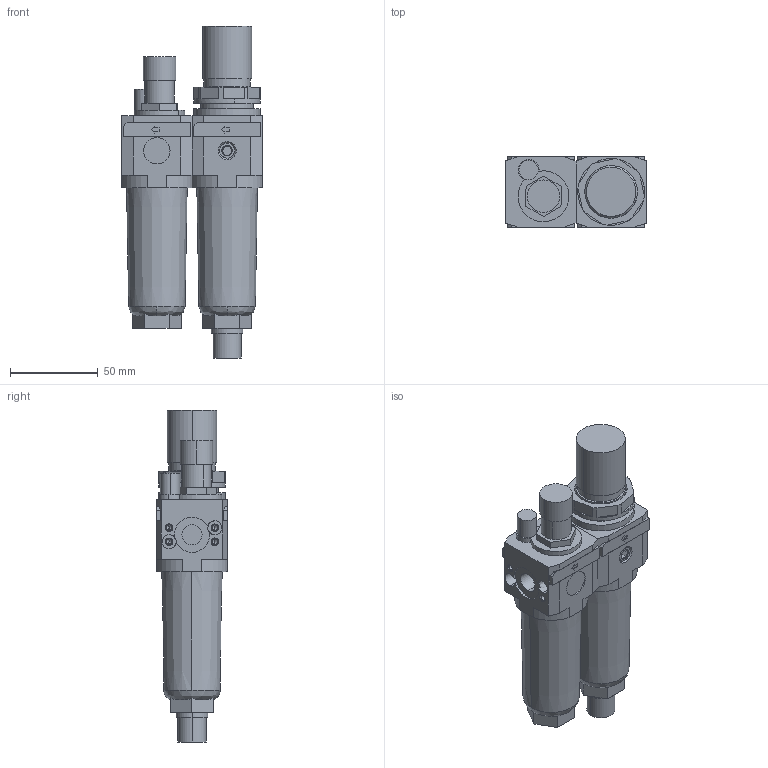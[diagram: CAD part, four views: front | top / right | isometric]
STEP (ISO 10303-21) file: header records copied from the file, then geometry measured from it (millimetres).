
FILE_DESCRIPTION((''),'2;1');
FILE_NAME('I:\DOC-EDP\Lib-3d\FRL\17106B_.stp','2003-06-16T14:49:29',('maffial1'),(''),'Autodesk Inventor 7','Autodesk Inventor 7','');
FILE_SCHEMA(('AUTOMOTIVE_DESIGN { 1 0 10303 214 1 1 1 1 }'));
Length unit declared in the file: millimetre
Products named in the file (6): 17106B_; 17104B_; 17104B_(1); RS_1701_12; RK_1701_020; 17103B
Assembly tree (5 placements, depth 3):
  17106B_
    17104B_
      17104B_(1)
      RS_1701_12
      RK_1701_020
    17103B
Bounding box: 80 x 40 x 189 mm (x, y, z)
Volume: 299739.6 mm3; surface area: 57021.8 mm2
Topology: 4 solids, 8 shells, 388 faces, 951 edges, 599 vertices
Faces by surface type: plane 143, bspline 115, cylinder 82, cone 44, torus 4
Entity records: 12257 total; most frequent: CARTESIAN_POINT 3294, ORIENTED_EDGE 1846, DIRECTION 1766, EDGE_CURVE 923, VERTEX_POINT 599, AXIS2_PLACEMENT_3D 595, VECTOR 576, LINE 576
